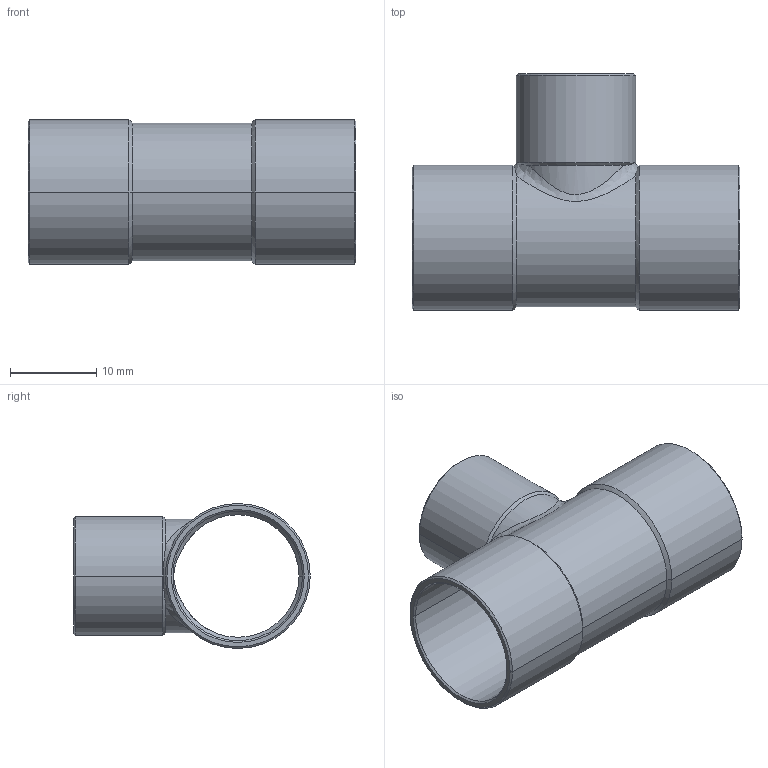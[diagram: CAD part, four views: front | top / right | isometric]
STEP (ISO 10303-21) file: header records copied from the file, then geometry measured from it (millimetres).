
FILE_DESCRIPTION((''),'2;1');
FILE_NAME('P:\Bouwmaten\z-maattekeningen 3D\5000\5130\5130151215.stp','2005-10-26T11:52:48',('Kris'),(''),'Autodesk Inventor 8','Autodesk Inventor 8','');
FILE_SCHEMA(('AUTOMOTIVE_DESIGN { 1 0 10303 214 1 1 1 1 }'));
Length unit declared in the file: millimetre
Products named in the file (1): 5130151215
Bounding box: 38 x 27.4 x 16.8 mm (x, y, z)
Volume: 1999.8 mm3; surface area: 4602.2 mm2
Topology: 1 solids, 1 shells, 49 faces, 116 edges, 68 vertices
Faces by surface type: cone 20, cylinder 16, bspline 10, plane 3
Entity records: 2084 total; most frequent: CARTESIAN_POINT 981, ORIENTED_EDGE 232, DIRECTION 216, EDGE_CURVE 116, AXIS2_PLACEMENT_3D 89, VERTEX_POINT 68, EDGE_LOOP 52, CIRCLE 49
